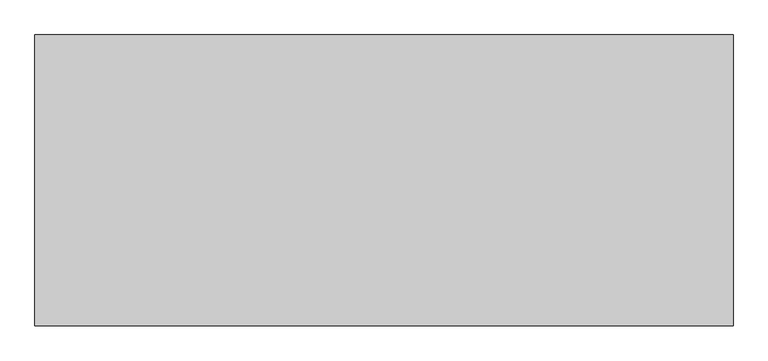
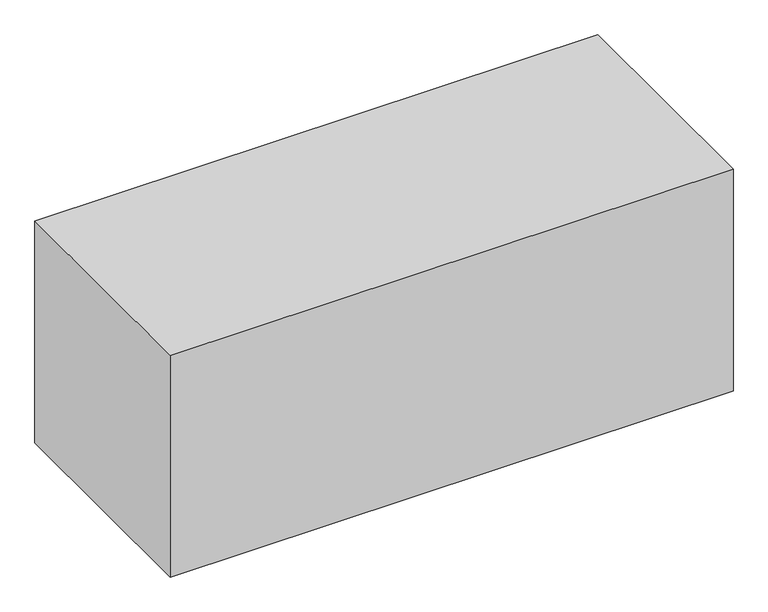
"""IFC4 building model written with IfcOpenShell, lengths in millimetres: proxy geometry, 営_屋上基礎_簡易 : 1200*500*H500."""

import ifcopenshell
import ifcopenshell.guid

model = None  # the IFC model being written
_history = None  # IfcOwnerHistory: only IFC2X3 demands one
_inside = {}  # id of a spatial element -> (the spatial element, [elements in it])
_under = {}  # id of a project, library or spatial element -> (it, [spatial elements below it])
_declared = {}  # id of a project -> (the project, [libraries it declares])
_typed = {}  # id of a type object -> (the type object, [elements of that type])
_made_of = {}  # id of a material, layer set ... -> (it, [elements and type objects made of it])


def new_model(schema):
    """Start an empty IFC model of exactly this schema.

    Asked for "IFC4X3", IfcOpenShell would pick the latest addendum, in which some entities
    have other attributes; the version numbers below select the first issue.
    IFC2X3 requires an IfcOwnerHistory on every rooted entity: one is made here for all.
    """
    global model, _history
    if schema == "IFC4X3":
        model = ifcopenshell.file(schema_version=(4, 3, 0, 0))
    else:
        model = ifcopenshell.file(schema=schema)
    _inside.clear()
    _under.clear()
    _declared.clear()
    _typed.clear()
    _made_of.clear()
    _history = None
    if model.schema == "IFC2X3":
        org = make("IfcOrganization", Name="unknown")
        user = make(
            "IfcPersonAndOrganization",
            ThePerson=make("IfcPerson", FamilyName="unknown"),
            TheOrganization=org,
        )
        app = make(
            "IfcApplication",
            ApplicationDeveloper=org,
            Version="unknown",
            ApplicationFullName="unknown",
            ApplicationIdentifier="unknown",
        )
        _history = make(
            "IfcOwnerHistory",
            OwningUser=user,
            OwningApplication=app,
            ChangeAction="ADDED",
            CreationDate=0,
        )
    return model


def make(cls, **values):
    """One entity of the class cls with the attributes given. An attribute that is None is left unset."""
    return model.create_entity(
        cls, **{name: value for name, value in values.items() if value is not None}
    )


def rooted(cls, **values):
    """An entity with a GlobalId (a new one), such as an element, a storey or a relation."""
    return make(cls, GlobalId=ifcopenshell.guid.new(), OwnerHistory=_history, **values)


def si_unit(unit_type, name, prefix=None):
    """IfcSIUnit, for example si_unit("LENGTHUNIT", "METRE", prefix="MILLI")."""
    return make("IfcSIUnit", UnitType=unit_type, Prefix=prefix, Name=name)


def assignment(units):
    """IfcUnitAssignment: the units of a project."""
    return None if units is None else make("IfcUnitAssignment", Units=units)


def point(xyz):
    """IfcCartesianPoint."""
    return None if xyz is None else make("IfcCartesianPoint", Coordinates=xyz)


def direction(xyz):
    """IfcDirection."""
    return None if xyz is None else make("IfcDirection", DirectionRatios=xyz)


def frame(location, z_axis=None, x_axis=None):
    """IfcAxis2Placement3D, a coordinate frame: its origin and axes. An axis left out is left unset."""
    return make(
        "IfcAxis2Placement3D",
        Location=point(location),
        Axis=direction(z_axis),
        RefDirection=direction(x_axis),
    )


def origin():
    """The frame at (0, 0, 0) with its axes left unset."""
    return frame((0.0, 0.0, 0.0))


def origin_with_axes():
    """The frame at (0, 0, 0) with the z axis (0, 0, 1) and the x axis (1, 0, 0) written out."""
    return frame((0.0, 0.0, 0.0), z_axis=(0.0, 0.0, 1.0), x_axis=(1.0, 0.0, 0.0))


def place(relative_to, where):
    """IfcLocalPlacement: puts the frame where relative to a parent placement (None: the world)."""
    return make(
        "IfcLocalPlacement", PlacementRelTo=relative_to, RelativePlacement=where
    )


def context(
    kind, dimensions, precision=None, world=None, true_north=None, identifier=None
):
    """IfcGeometricRepresentationContext, for example the 3D "Model" context."""
    return make(
        "IfcGeometricRepresentationContext",
        ContextIdentifier=identifier,
        ContextType=kind,
        CoordinateSpaceDimension=dimensions,
        Precision=precision,
        WorldCoordinateSystem=world,
        TrueNorth=true_north,
    )


def project(units=None, contexts=None):
    """IfcProject with its units and contexts."""
    return rooted(
        "IfcProject",
        Name="project",
        RepresentationContexts=contexts,
        UnitsInContext=assignment(units),
    )


def spatial(cls, under=None, at=None, **own):
    """A site, building, storey or space (cls), placed at a placement, below another one or the project."""
    s = rooted(cls, ObjectPlacement=at, **own)
    if under is not None:
        _under.setdefault(under.id(), (under, []))[1].append(s)
    return s


def polyline(points):
    """IfcPolyline through the points."""
    return make("IfcPolyline", Points=[point(p) for p in points])


def outline(outer, holes=None, kind="AREA"):
    """IfcArbitraryClosedProfileDef: a profile drawn as a closed curve; with holes, ...WithVoids."""
    if holes is None:
        return make("IfcArbitraryClosedProfileDef", ProfileType=kind, OuterCurve=outer)
    return make(
        "IfcArbitraryProfileDefWithVoids",
        ProfileType=kind,
        OuterCurve=outer,
        InnerCurves=holes,
    )


def extrude(swept, where, along, depth):
    """IfcExtrudedAreaSolid: the profile swept, set in the frame where, extruded along a direction by depth."""
    return make(
        "IfcExtrudedAreaSolid",
        SweptArea=swept,
        Position=where,
        ExtrudedDirection=direction(along),
        Depth=depth,
    )


def shape(context_of_items, identifier, shape_type, items):
    """IfcShapeRepresentation: the items that make up one representation, for example the "Body"."""
    return make(
        "IfcShapeRepresentation",
        ContextOfItems=context_of_items,
        RepresentationIdentifier=identifier,
        RepresentationType=shape_type,
        Items=items,
    )


def source(mapping_origin, context_of_items, identifier, shape_type, items):
    """IfcRepresentationMap: a shape defined once, which mapped items show again and again."""
    return make(
        "IfcRepresentationMap",
        MappingOrigin=mapping_origin,
        MappedRepresentation=shape(context_of_items, identifier, shape_type, items),
    )


def transform(
    local_origin,
    x_axis=None,
    y_axis=None,
    z_axis=None,
    scale=None,
    scale2=None,
    scale3=None,
    uniform=True,
):
    """IfcCartesianTransformationOperator3D, or its non-uniform kind. x_axis, y_axis, z_axis: its Axis1, 2, 3."""
    if uniform:
        return make(
            "IfcCartesianTransformationOperator3D",
            Axis1=direction(x_axis),
            Axis2=direction(y_axis),
            LocalOrigin=point(local_origin),
            Scale=scale,
            Axis3=direction(z_axis),
        )
    return make(
        "IfcCartesianTransformationOperator3DnonUniform",
        Axis1=direction(x_axis),
        Axis2=direction(y_axis),
        LocalOrigin=point(local_origin),
        Scale=scale,
        Axis3=direction(z_axis),
        Scale2=scale2,
        Scale3=scale3,
    )


def mapped(mapping_source, mapping_target):
    """IfcMappedItem: shows the shape of a source again, moved by a transform."""
    return make(
        "IfcMappedItem", MappingSource=mapping_source, MappingTarget=mapping_target
    )


def made_of(thing, what):
    """Note that an element or type object is made of a material, layer set ...; save() writes the relation."""
    if what is not None:
        _made_of.setdefault(what.id(), (what, []))[1].append(thing)
    return thing


def element(
    cls,
    number,
    at=None,
    inside=None,
    cuts=None,
    type_object=None,
    material=None,
    context=None,
    identifier="Body",
    shape_type=None,
    held_by="IfcProductDefinitionShape",
    body=None,
    shapes=None,
    **own,
):
    """One element of the class cls, such as IfcWall. Its Tag is "e" and its number.

    at: its placement. inside: the storey or other place that contains it. cuts: it is an
    opening in that element (IfcRelVoidsElement). A single representation is given by context,
    identifier, shape_type and body (its items); several are given by shapes. held_by: the class
    of the entity that holds the representations. save() writes the other relations.
    """
    e = rooted(cls, Tag="e%d" % number, ObjectPlacement=at, **own)
    if body is not None:
        shapes = [shape(context, identifier, shape_type, body)]
    if shapes is not None:
        e.Representation = make(held_by, Representations=shapes)
    if inside is not None:
        _inside.setdefault(inside.id(), (inside, []))[1].append(e)
    if cuts is not None:
        rooted(
            "IfcRelVoidsElement", RelatingBuildingElement=cuts, RelatedOpeningElement=e
        )
    if type_object is not None:
        _typed.setdefault(type_object.id(), (type_object, []))[1].append(e)
    return made_of(e, material)


def aggregate(whole, parts):
    """IfcRelAggregates: a whole, such as a stair, and the parts it consists of."""
    return rooted("IfcRelAggregates", RelatingObject=whole, RelatedObjects=parts)


def save(model, path):
    """Write the relations noted so far, then the file.

    IfcRelAggregates (storeys below a building ...), IfcRelContainedInSpatialStructure (elements
    in a storey), IfcRelDefinesByType, IfcRelAssociatesMaterial and IfcRelDeclares: one each for
    every whole, place, type object, material and project.
    """
    for whole, parts in _under.values():
        aggregate(whole, parts)
    for where, things in _inside.values():
        rooted(
            "IfcRelContainedInSpatialStructure",
            RelatedElements=things,
            RelatingStructure=where,
        )
    for kind, things in _typed.values():
        rooted("IfcRelDefinesByType", RelatedObjects=things, RelatingType=kind)
    for what, things in _made_of.values():
        rooted("IfcRelAssociatesMaterial", RelatedObjects=things, RelatingMaterial=what)
    for by, libraries in _declared.values():
        rooted("IfcRelDeclares", RelatingContext=by, RelatedDefinitions=libraries)
    model.write(path)


def generic_models_6a631b4b(model_context):
    return source(origin(), model_context, "Body", "SweptSolid", [
        extrude(outline(polyline([(600.0, 250.0), (600.0, -250.0), (-600.0, -250.0), (-600.0, 250.0), (600.0, 250.0)])), origin_with_axes(), (0.0, 0.0, 1.0), 500.0),
    ])


if __name__ == "__main__":
    model = new_model("IFC4")
    model_context = context("Model", 3, world=origin())
    ifc_project = project(units=[si_unit("LENGTHUNIT", "METRE", prefix="MILLI")], contexts=[model_context])
    site = spatial("IfcSite", under=ifc_project)
    building = spatial("IfcBuilding", under=site)
    placement = place(None, origin())
    generic_models_shape = generic_models_6a631b4b(model_context)
    element("IfcBuildingElementProxy", 1, Name="営_屋上基礎_簡易 : 1200*500*H500", ObjectType="営_屋上基礎_簡易 : 1200*500*H500", at=placement, inside=building, context=model_context, shape_type="MappedRepresentation", body=[
        mapped(generic_models_shape, transform((0.0, 0.0, 0.0), x_axis=(1.0, 0.0, 0.0), y_axis=(0.0, 1.0, 0.0), z_axis=(0.0, 0.0, 1.0))),
    ])
    save(model, "model.ifc")
